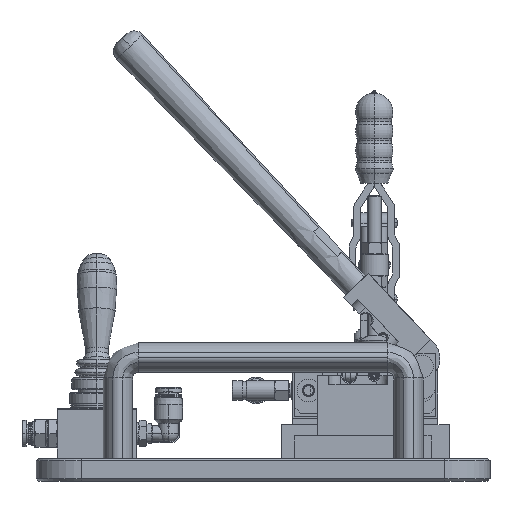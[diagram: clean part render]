
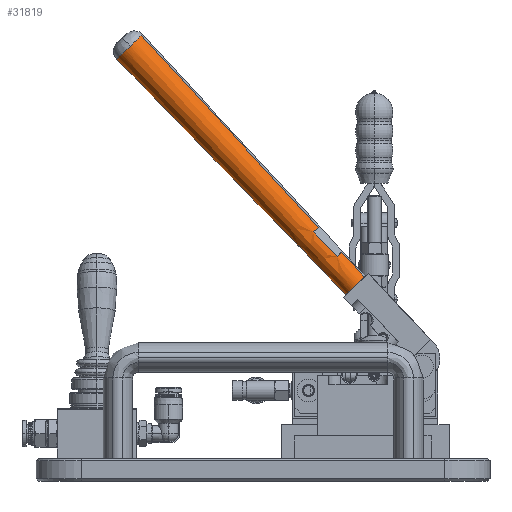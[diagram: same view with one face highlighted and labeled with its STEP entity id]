
A CAD part, left-side view. The second image highlights one B-rep face of the part: STEP entity #31819.
In plain terms, the highlighted conical face has half-angle 0.764 degrees and reference radius 7.932 mm.
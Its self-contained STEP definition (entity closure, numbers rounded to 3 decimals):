
#1095 = DIRECTION ( 'NONE',  ( -1., 0., 0. ) ) ;
#2397 = CARTESIAN_POINT ( 'NONE',  ( 6., 0., 0. ) ) ;
#3161 = DIRECTION ( 'NONE',  ( -1., 0., 0. ) ) ;
#4144 = ORIENTED_EDGE ( 'NONE', *, *, #6383, .F. ) ;
#6383 = EDGE_CURVE ( 'NONE', #104866, #114245, #20898, .T. ) ;
#8765 = CIRCLE ( 'NONE', #66885, 6. ) ;
#8999 = FACE_OUTER_BOUND ( 'NONE', #40029, .T. ) ;
#9719 = DIRECTION ( 'NONE',  ( 0.013, 0., 1. ) ) ;
#11667 = DIRECTION ( 'NONE',  ( 0., 0., 1. ) ) ;
#11810 = CARTESIAN_POINT ( 'NONE',  ( 5., 3.995, 30. ) ) ;
#12087 = LINE ( 'NONE', #106502, #59497 ) ;
#13908 = CARTESIAN_POINT ( 'NONE',  ( -7.932, 0., 144.933 ) ) ;
#14978 = VERTEX_POINT ( 'NONE', #11810 ) ;
#15568 = VERTEX_POINT ( 'NONE', #59320 ) ;
#17300 = CARTESIAN_POINT ( 'NONE',  ( 5., 3.666, 15. ) ) ;
#17470 = DIRECTION ( 'NONE',  ( 0., 0., 1. ) ) ;
#18319 = CIRCLE ( 'NONE', #53443, 7.932 ) ;
#19076 = DIRECTION ( 'NONE',  ( 0., 0., 1. ) ) ;
#19864 = VERTEX_POINT ( 'NONE', #91413 ) ;
#20579 = VERTEX_POINT ( 'NONE', #80735 ) ;
#20783 = EDGE_CURVE ( 'NONE', #84610, #14978, #122022, .T. ) ;
#20898 = CIRCLE ( 'NONE', #93993, 6.2 ) ;
#21722 = CARTESIAN_POINT ( 'NONE',  ( 6.2, 0., 15. ) ) ;
#22248 = ORIENTED_EDGE ( 'NONE', *, *, #72856, .F. ) ;
#22971 = CARTESIAN_POINT ( 'NONE',  ( -5., 3.995, 30. ) ) ;
#26770 = CARTESIAN_POINT ( 'NONE',  ( 0., 0., 144.933 ) ) ;
#26811 = CARTESIAN_POINT ( 'NONE',  ( 5., 3.779, 20. ) ) ;
#27312 = ORIENTED_EDGE ( 'NONE', *, *, #37900, .T. ) ;
#28275 = CONICAL_SURFACE ( 'NONE', #93159, 7.932, 0.013 ) ;
#29204 = ORIENTED_EDGE ( 'NONE', *, *, #119718, .T. ) ;
#30823 = VECTOR ( 'NONE', #84571, 1000. ) ;
#31517 = CARTESIAN_POINT ( 'NONE',  ( -5., 3.666, 15. ) ) ;
#31819 = ADVANCED_FACE ( 'NONE', ( #8999 ), #28275, .T. ) ;
#33681 = AXIS2_PLACEMENT_3D ( 'NONE', #114755, #57860, #1095 ) ;
#34447 = CARTESIAN_POINT ( 'NONE',  ( 0., 0., 15. ) ) ;
#36218 = DIRECTION ( 'NONE',  ( -0.878, -0.479, 0. ) ) ;
#37900 = EDGE_CURVE ( 'NONE', #115135, #75277, #18319, .T. ) ;
#40029 = EDGE_LOOP ( 'NONE', ( #71169, #118350, #67942, #52033, #29204, #94972, #93239, #27312, #76827, #42240, #71941, #4144, #22248 ) ) ;
#42240 = ORIENTED_EDGE ( 'NONE', *, *, #20783, .T. ) ;
#45041 = EDGE_CURVE ( 'NONE', #63970, #111168, #50253, .T. ) ;
#49307 = AXIS2_PLACEMENT_3D ( 'NONE', #116823, #59912, #3161 ) ;
#49801 = DIRECTION ( 'NONE',  ( 0., 0., -1. ) ) ;
#50095 = VERTEX_POINT ( 'NONE', #55679 ) ;
#50253 = CIRCLE ( 'NONE', #98959, 6.2 ) ;
#51027 = LINE ( 'NONE', #104343, #98579 ) ;
#51523 = CARTESIAN_POINT ( 'NONE',  ( -5., 3.666, 15. ) ) ;
#52033 = ORIENTED_EDGE ( 'NONE', *, *, #109089, .F. ) ;
#52909 = EDGE_CURVE ( 'NONE', #20579, #111168, #90231, .T. ) ;
#53443 = AXIS2_PLACEMENT_3D ( 'NONE', #106739, #49801, #116224 ) ;
#55316 = CARTESIAN_POINT ( 'NONE',  ( 5., 3.995, 30. ) ) ;
#55679 = CARTESIAN_POINT ( 'NONE',  ( -5., 3.995, 30. ) ) ;
#57860 = DIRECTION ( 'NONE',  ( 0., 0., 1. ) ) ;
#59320 = CARTESIAN_POINT ( 'NONE',  ( -7.932, 0., 144.933 ) ) ;
#59497 = VECTOR ( 'NONE', #78214, 1000. ) ;
#59912 = DIRECTION ( 'NONE',  ( 0., 0., 1. ) ) ;
#60594 = VECTOR ( 'NONE', #89766, 1000. ) ;
#61273 = EDGE_CURVE ( 'NONE', #109901, #20579, #8765, .T. ) ;
#63970 = VERTEX_POINT ( 'NONE', #31517 ) ;
#66885 = AXIS2_PLACEMENT_3D ( 'NONE', #68433, #11667, #77976 ) ;
#67315 = CIRCLE ( 'NONE', #88566, 7.932 ) ;
#67942 = ORIENTED_EDGE ( 'NONE', *, *, #45041, .F. ) ;
#68433 = CARTESIAN_POINT ( 'NONE',  ( 0., 0., 0. ) ) ;
#69791 = CARTESIAN_POINT ( 'NONE',  ( -5., 3.888, 25. ) ) ;
#71169 = ORIENTED_EDGE ( 'NONE', *, *, #61273, .T. ) ;
#71941 = ORIENTED_EDGE ( 'NONE', *, *, #110180, .F. ) ;
#72856 = EDGE_CURVE ( 'NONE', #109901, #104866, #12087, .T. ) ;
#74198 = CARTESIAN_POINT ( 'NONE',  ( 0., 0., 15. ) ) ;
#75277 = VERTEX_POINT ( 'NONE', #121441 ) ;
#75432 = DIRECTION ( 'NONE',  ( 1., 0., 0. ) ) ;
#76640 = CARTESIAN_POINT ( 'NONE',  ( -7.932, 0., 144.933 ) ) ;
#76827 = ORIENTED_EDGE ( 'NONE', *, *, #82832, .F. ) ;
#77976 = DIRECTION ( 'NONE',  ( 1., 0., 0. ) ) ;
#78214 = DIRECTION ( 'NONE',  ( 0.013, 0., 1. ) ) ;
#78859 = B_SPLINE_CURVE_WITH_KNOTS ( 'NONE', 3,
 ( #17300, #26811, #112243, #55316 ),
 .UNSPECIFIED., .F., .F.,
 ( 4, 4 ),
 ( 0.01, 0.025 ),
 .UNSPECIFIED. ) ;
#80735 = CARTESIAN_POINT ( 'NONE',  ( -6., 0., 0. ) ) ;
#81764 = DIRECTION ( 'NONE',  ( -1., 0., 0. ) ) ;
#82598 = CARTESIAN_POINT ( 'NONE',  ( 0., 0., 144.933 ) ) ;
#82832 = EDGE_CURVE ( 'NONE', #84610, #75277, #51027, .T. ) ;
#83775 = DIRECTION ( 'NONE',  ( -1., 0., 0. ) ) ;
#84571 = DIRECTION ( 'NONE',  ( -0.013, 0., 1. ) ) ;
#84610 = VERTEX_POINT ( 'NONE', #109693 ) ;
#85639 = CARTESIAN_POINT ( 'NONE',  ( -4., 6.85, 144.933 ) ) ;
#88420 = CIRCLE ( 'NONE', #49307, 6.4 ) ;
#88566 = AXIS2_PLACEMENT_3D ( 'NONE', #26770, #93126, #36218 ) ;
#88826 = LINE ( 'NONE', #13908, #60594 ) ;
#89766 = DIRECTION ( 'NONE',  ( -0.013, 0., 1. ) ) ;
#90231 = LINE ( 'NONE', #76640, #30823 ) ;
#91291 = DIRECTION ( 'NONE',  ( 0., 0., 1. ) ) ;
#91413 = CARTESIAN_POINT ( 'NONE',  ( -6.4, 0., 30. ) ) ;
#93126 = DIRECTION ( 'NONE',  ( 0., 0., -1. ) ) ;
#93159 = AXIS2_PLACEMENT_3D ( 'NONE', #82598, #19076, #75432 ) ;
#93239 = ORIENTED_EDGE ( 'NONE', *, *, #99202, .T. ) ;
#93993 = AXIS2_PLACEMENT_3D ( 'NONE', #34447, #91291, #81764 ) ;
#94801 = CARTESIAN_POINT ( 'NONE',  ( 5., 3.666, 15. ) ) ;
#94972 = ORIENTED_EDGE ( 'NONE', *, *, #122652, .T. ) ;
#98579 = VECTOR ( 'NONE', #9719, 1000. ) ;
#98959 = AXIS2_PLACEMENT_3D ( 'NONE', #74198, #17470, #83775 ) ;
#99202 = EDGE_CURVE ( 'NONE', #15568, #115135, #67315, .T. ) ;
#104343 = CARTESIAN_POINT ( 'NONE',  ( 7.932, 0., 144.933 ) ) ;
#104866 = VERTEX_POINT ( 'NONE', #21722 ) ;
#106502 = CARTESIAN_POINT ( 'NONE',  ( 7.932, 0., 144.933 ) ) ;
#106739 = CARTESIAN_POINT ( 'NONE',  ( 0., 0., 144.933 ) ) ;
#108483 = CARTESIAN_POINT ( 'NONE',  ( -5., 3.779, 20. ) ) ;
#109089 = EDGE_CURVE ( 'NONE', #50095, #63970, #112150, .T. ) ;
#109693 = CARTESIAN_POINT ( 'NONE',  ( 6.4, 0., 30. ) ) ;
#109901 = VERTEX_POINT ( 'NONE', #2397 ) ;
#110180 = EDGE_CURVE ( 'NONE', #114245, #14978, #78859, .T. ) ;
#111168 = VERTEX_POINT ( 'NONE', #122694 ) ;
#112150 = B_SPLINE_CURVE_WITH_KNOTS ( 'NONE', 3,
 ( #22971, #69791, #108483, #51523 ),
 .UNSPECIFIED., .F., .F.,
 ( 4, 4 ),
 ( 0.038, 0.053 ),
 .UNSPECIFIED. ) ;
#112243 = CARTESIAN_POINT ( 'NONE',  ( 5., 3.888, 25. ) ) ;
#114245 = VERTEX_POINT ( 'NONE', #94801 ) ;
#114755 = CARTESIAN_POINT ( 'NONE',  ( 0., 0., 30. ) ) ;
#115135 = VERTEX_POINT ( 'NONE', #85639 ) ;
#116224 = DIRECTION ( 'NONE',  ( -0.878, -0.479, 0. ) ) ;
#116823 = CARTESIAN_POINT ( 'NONE',  ( 0., 0., 30. ) ) ;
#118350 = ORIENTED_EDGE ( 'NONE', *, *, #52909, .T. ) ;
#119718 = EDGE_CURVE ( 'NONE', #50095, #19864, #88420, .T. ) ;
#121441 = CARTESIAN_POINT ( 'NONE',  ( 7.932, 0., 144.933 ) ) ;
#122022 = CIRCLE ( 'NONE', #33681, 6.4 ) ;
#122652 = EDGE_CURVE ( 'NONE', #19864, #15568, #88826, .T. ) ;
#122694 = CARTESIAN_POINT ( 'NONE',  ( -6.2, 0., 15. ) ) ;
